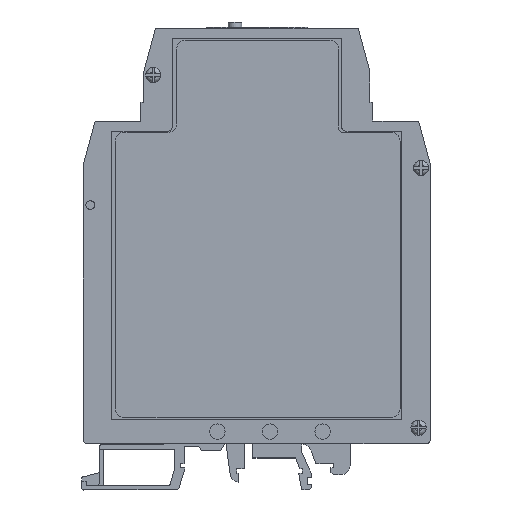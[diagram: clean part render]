
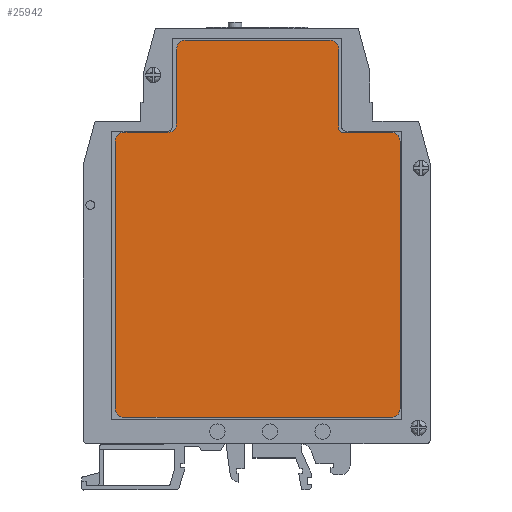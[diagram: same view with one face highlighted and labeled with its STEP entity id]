
A CAD part, top view. The second image highlights one B-rep face of the part: STEP entity #25942.
In plain terms, the highlighted planar face has unit normal (0, 0, 1) as drawn and (0, 0, -1) by its records, which use the part's own axes.
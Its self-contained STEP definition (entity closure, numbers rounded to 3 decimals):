
#1865=PLANE('',#27961);
#3044=FACE_OUTER_BOUND('',#4477,.T.);
#4477=EDGE_LOOP('',(#22730,#22731,#22732,#22733,#22734,#22735,#22736,#22737,
#22738,#22739,#22740,#22741,#22742,#22743,#22744,#22745));
#7040=LINE('',#41314,#9884);
#7044=LINE('',#41326,#9888);
#7048=LINE('',#41338,#9892);
#7052=LINE('',#41350,#9896);
#7056=LINE('',#41362,#9900);
#7060=LINE('',#41374,#9904);
#7064=LINE('',#41386,#9908);
#7068=LINE('',#41397,#9912);
#9884=VECTOR('',#33685,10.);
#9888=VECTOR('',#33697,10.);
#9892=VECTOR('',#33709,10.);
#9896=VECTOR('',#33721,10.);
#9900=VECTOR('',#33733,10.);
#9904=VECTOR('',#33745,10.);
#9908=VECTOR('',#33757,10.);
#9912=VECTOR('',#33769,10.);
#10921=CIRCLE('',#27929,2.);
#10923=CIRCLE('',#27933,2.);
#10925=CIRCLE('',#27937,2.);
#10927=CIRCLE('',#27941,2.);
#10929=CIRCLE('',#27945,2.);
#10931=CIRCLE('',#27949,1.);
#10933=CIRCLE('',#27953,2.);
#10935=CIRCLE('',#27957,2.);
#13020=VERTEX_POINT('',#41304);
#13021=VERTEX_POINT('',#41305);
#13024=VERTEX_POINT('',#41313);
#13026=VERTEX_POINT('',#41319);
#13028=VERTEX_POINT('',#41325);
#13030=VERTEX_POINT('',#41331);
#13032=VERTEX_POINT('',#41337);
#13034=VERTEX_POINT('',#41343);
#13036=VERTEX_POINT('',#41349);
#13038=VERTEX_POINT('',#41355);
#13040=VERTEX_POINT('',#41361);
#13042=VERTEX_POINT('',#41367);
#13044=VERTEX_POINT('',#41373);
#13046=VERTEX_POINT('',#41379);
#13048=VERTEX_POINT('',#41385);
#13050=VERTEX_POINT('',#41391);
#16341=EDGE_CURVE('',#13020,#13021,#10921,.T.);
#16345=EDGE_CURVE('',#13024,#13020,#7040,.T.);
#16348=EDGE_CURVE('',#13026,#13024,#10923,.T.);
#16351=EDGE_CURVE('',#13028,#13026,#7044,.T.);
#16354=EDGE_CURVE('',#13030,#13028,#10925,.T.);
#16357=EDGE_CURVE('',#13032,#13030,#7048,.T.);
#16360=EDGE_CURVE('',#13034,#13032,#10927,.T.);
#16363=EDGE_CURVE('',#13036,#13034,#7052,.T.);
#16366=EDGE_CURVE('',#13038,#13036,#10929,.T.);
#16369=EDGE_CURVE('',#13040,#13038,#7056,.T.);
#16372=EDGE_CURVE('',#13042,#13040,#10931,.T.);
#16375=EDGE_CURVE('',#13044,#13042,#7060,.T.);
#16378=EDGE_CURVE('',#13046,#13044,#10933,.T.);
#16381=EDGE_CURVE('',#13048,#13046,#7064,.T.);
#16384=EDGE_CURVE('',#13050,#13048,#10935,.T.);
#16387=EDGE_CURVE('',#13021,#13050,#7068,.T.);
#22730=ORIENTED_EDGE('',*,*,#16387,.F.);
#22731=ORIENTED_EDGE('',*,*,#16341,.F.);
#22732=ORIENTED_EDGE('',*,*,#16345,.F.);
#22733=ORIENTED_EDGE('',*,*,#16348,.F.);
#22734=ORIENTED_EDGE('',*,*,#16351,.F.);
#22735=ORIENTED_EDGE('',*,*,#16354,.F.);
#22736=ORIENTED_EDGE('',*,*,#16357,.F.);
#22737=ORIENTED_EDGE('',*,*,#16360,.F.);
#22738=ORIENTED_EDGE('',*,*,#16363,.F.);
#22739=ORIENTED_EDGE('',*,*,#16366,.F.);
#22740=ORIENTED_EDGE('',*,*,#16369,.F.);
#22741=ORIENTED_EDGE('',*,*,#16372,.F.);
#22742=ORIENTED_EDGE('',*,*,#16375,.F.);
#22743=ORIENTED_EDGE('',*,*,#16378,.F.);
#22744=ORIENTED_EDGE('',*,*,#16381,.F.);
#22745=ORIENTED_EDGE('',*,*,#16384,.F.);
#25942=ADVANCED_FACE('',(#3044),#1865,.F.);
#27929=AXIS2_PLACEMENT_3D('',#41306,#33677,#33678);
#27933=AXIS2_PLACEMENT_3D('',#41320,#33690,#33691);
#27937=AXIS2_PLACEMENT_3D('',#41332,#33702,#33703);
#27941=AXIS2_PLACEMENT_3D('',#41344,#33714,#33715);
#27945=AXIS2_PLACEMENT_3D('',#41356,#33726,#33727);
#27949=AXIS2_PLACEMENT_3D('',#41368,#33738,#33739);
#27953=AXIS2_PLACEMENT_3D('',#41380,#33750,#33751);
#27957=AXIS2_PLACEMENT_3D('',#41392,#33762,#33763);
#27961=AXIS2_PLACEMENT_3D('',#41400,#33773,#33774);
#33677=DIRECTION('center_axis',(0.,0.,-1.));
#33678=DIRECTION('ref_axis',(0.,-1.,0.));
#33685=DIRECTION('',(0.,1.,0.));
#33690=DIRECTION('center_axis',(0.,0.,1.));
#33691=DIRECTION('ref_axis',(0.,-1.,0.));
#33697=DIRECTION('',(1.,0.,0.));
#33702=DIRECTION('center_axis',(0.,0.,1.));
#33703=DIRECTION('ref_axis',(-1.,0.,0.));
#33709=DIRECTION('',(0.,-1.,0.));
#33714=DIRECTION('center_axis',(0.,0.,1.));
#33715=DIRECTION('ref_axis',(0.,1.,0.));
#33721=DIRECTION('',(-1.,0.,0.));
#33726=DIRECTION('center_axis',(0.,0.,1.));
#33727=DIRECTION('ref_axis',(1.,0.,0.));
#33733=DIRECTION('',(0.,1.,0.));
#33738=DIRECTION('center_axis',(0.,0.,-1.));
#33739=DIRECTION('ref_axis',(1.,0.,0.));
#33745=DIRECTION('',(-1.,0.,0.));
#33750=DIRECTION('center_axis',(0.,0.,1.));
#33751=DIRECTION('ref_axis',(1.,0.,0.));
#33757=DIRECTION('',(0.,1.,0.));
#33762=DIRECTION('center_axis',(0.,0.,1.));
#33763=DIRECTION('ref_axis',(0.,-1.,0.));
#33769=DIRECTION('',(1.,0.,0.));
#33773=DIRECTION('center_axis',(0.,0.,1.));
#33774=DIRECTION('ref_axis',(1.,0.,0.));
#41304=CARTESIAN_POINT('',(65.,12.,0.));
#41305=CARTESIAN_POINT('',(67.,14.,0.));
#41306=CARTESIAN_POINT('Origin',(67.,12.,0.));
#41313=CARTESIAN_POINT('',(65.,2.,0.));
#41314=CARTESIAN_POINT('',(65.,2.,0.));
#41319=CARTESIAN_POINT('',(63.,0.,0.));
#41320=CARTESIAN_POINT('Origin',(63.,2.,0.));
#41325=CARTESIAN_POINT('',(2.,0.,0.));
#41326=CARTESIAN_POINT('',(2.,0.,0.));
#41331=CARTESIAN_POINT('',(0.,2.,0.));
#41332=CARTESIAN_POINT('Origin',(2.,2.,0.));
#41337=CARTESIAN_POINT('',(0.,63.,0.));
#41338=CARTESIAN_POINT('',(0.,63.,0.));
#41343=CARTESIAN_POINT('',(2.,65.,0.));
#41344=CARTESIAN_POINT('Origin',(2.,63.,0.));
#41349=CARTESIAN_POINT('',(63.,65.,0.));
#41350=CARTESIAN_POINT('',(63.,65.,0.));
#41355=CARTESIAN_POINT('',(65.,63.,0.));
#41356=CARTESIAN_POINT('Origin',(63.,63.,0.));
#41361=CARTESIAN_POINT('',(65.,52.,0.));
#41362=CARTESIAN_POINT('',(65.,52.,0.));
#41367=CARTESIAN_POINT('',(66.,51.,0.));
#41368=CARTESIAN_POINT('Origin',(66.,52.,0.));
#41373=CARTESIAN_POINT('',(84.,51.,0.));
#41374=CARTESIAN_POINT('',(84.,51.,0.));
#41379=CARTESIAN_POINT('',(86.,49.,0.));
#41380=CARTESIAN_POINT('Origin',(84.,49.,0.));
#41385=CARTESIAN_POINT('',(86.,16.,0.));
#41386=CARTESIAN_POINT('',(86.,16.,0.));
#41391=CARTESIAN_POINT('',(84.,14.,0.));
#41392=CARTESIAN_POINT('Origin',(84.,16.,0.));
#41397=CARTESIAN_POINT('',(67.,14.,0.));
#41400=CARTESIAN_POINT('Origin',(40.534,32.553,0.));
